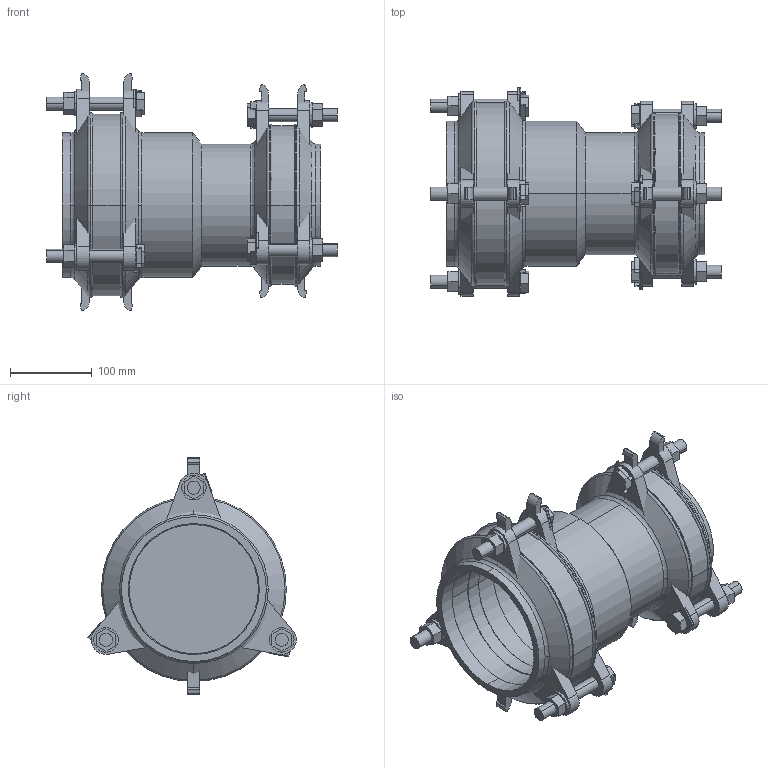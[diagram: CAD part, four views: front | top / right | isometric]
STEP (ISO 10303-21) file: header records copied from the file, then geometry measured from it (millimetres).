
FILE_DESCRIPTION(('STEP AP214'),'1');
FILE_NAME('MJ004744 DN 125-100.STP','2015-02-06T12:05:46',(' '),(' '),'Spatial InterOp 3D',' ',' ');
FILE_SCHEMA(('automotive_design'));
Length unit declared in the file: millimetre
Products named in the file (67): 3D-Objekt
Bounding box: 355 x 254.75 x 290 mm (x, y, z)
Volume: 3429118.2 mm3; surface area: 899572.9 mm2
Topology: 67 solids, 67 shells, 530 faces, 1184 edges, 788 vertices
Faces by surface type: plane 354, cylinder 134, torus 24, cone 18
Entity records: 20571 total; most frequent: DIRECTION 2750, CARTESIAN_POINT 2569, ORIENTED_EDGE 2368, EDGE_CURVE 1184, AXIS2_PLACEMENT_3D 969, LINE 812, VECTOR 812, VERTEX_POINT 788
